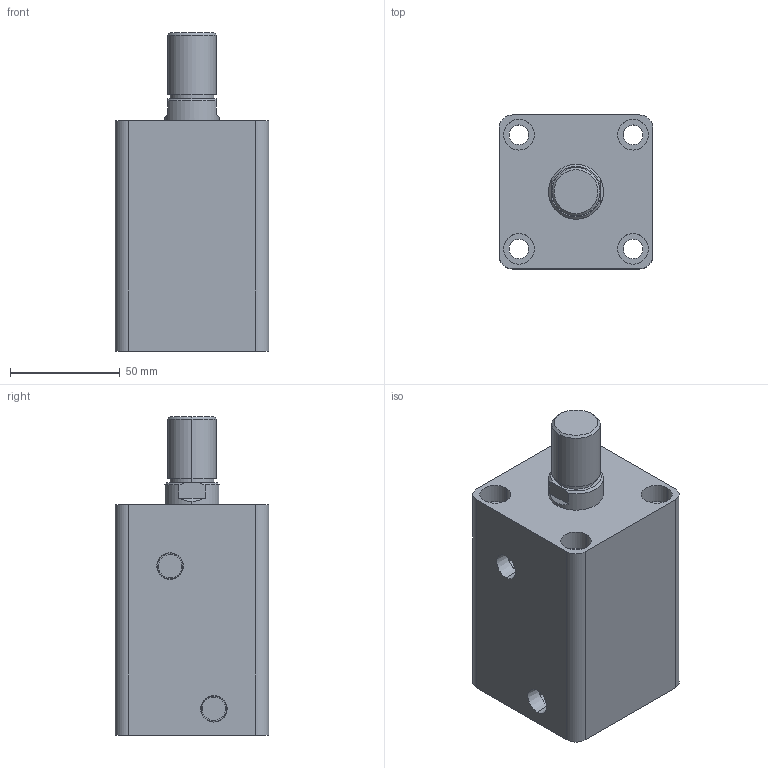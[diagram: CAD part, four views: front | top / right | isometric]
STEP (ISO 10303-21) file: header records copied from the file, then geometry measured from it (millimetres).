
FILE_DESCRIPTION (( 'STEP AP203' ), '1' );
FILE_NAME ('HTB-SD40-50W.STEP', '2019-10-07T06:52:16', ( '微软用户' ), ( '微软中国' ), 'SwSTEP 2.0', 'SolidWorks 2012', '' );
FILE_SCHEMA (( 'CONFIG_CONTROL_DESIGN' ));
Length unit declared in the file: millimetre
Products named in the file (3): HTB-SD40-50掛极; HTB-SD40-50W活塞杆; HTB-SD40-50W
Assembly tree (2 placements, depth 2):
  HTB-SD40-50W
    HTB-SD40-50掛极
    HTB-SD40-50W活塞杆
Bounding box: 70 x 70 x 145 mm (x, y, z)
Volume: 453727.1 mm3; surface area: 77077.9 mm2
Topology: 2 solids, 2 shells, 85 faces, 186 edges, 122 vertices
Faces by surface type: cylinder 44, plane 29, cone 8, torus 4
Entity records: 2709 total; most frequent: DIRECTION 466, CARTESIAN_POINT 426, ORIENTED_EDGE 372, AXIS2_PLACEMENT_3D 198, EDGE_CURVE 186, VERTEX_POINT 122, EDGE_LOOP 110, CIRCLE 108
